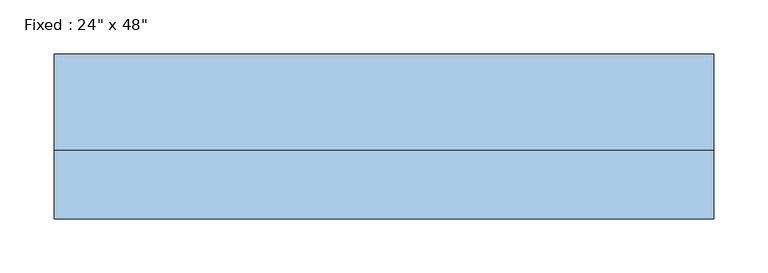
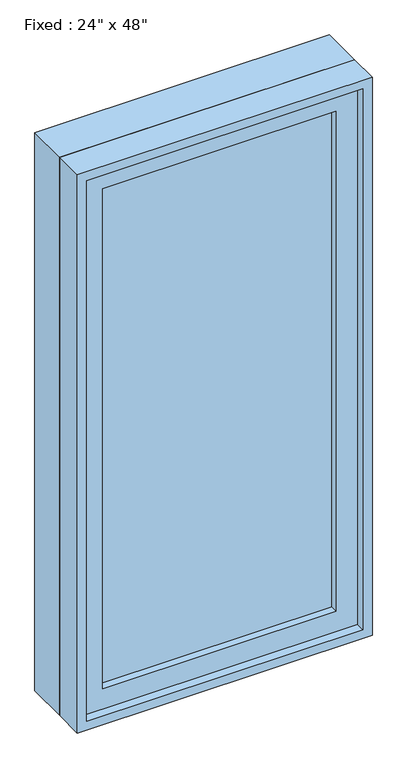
"""IFC4 building model written with IfcOpenShell, lengths in millimetres: window geometry."""

from ifc_helpers import new_model, si_unit, frame, origin, place, context, project, spatial, polyline, outline, extrude, source, transform, mapped, element, save


def window_e417f23f(model_context):
    return source(origin(), model_context, "Body", "SweptSolid", [
        extrude(outline(polyline([(203.2, -28.575), (203.2, -41.275), (-279.4, -41.275), (-279.4, -28.575), (203.2, -28.575)])), frame((0.0, 0.0, 977.9), z_axis=(0.0, 0.0, 1.0), x_axis=(1.0, 0.0, 0.0)), (0.0, 0.0, 1.0), 1092.2),
        extrude(outline(polyline([(2114.55, -323.85), (933.45, -323.85), (933.45, 247.65), (2114.55, 247.65), (2114.55, -323.85)]), holes=[polyline([(2070.1, -279.4), (2070.1, 203.2), (977.9, 203.2), (977.9, -279.4), (2070.1, -279.4)])]), frame((0.0, -57.15, 0.0), z_axis=(0.0, 1.0, 0.0), x_axis=(0.0, 0.0, 1.0)), (0.0, 0.0, 1.0), 44.45),
        extrude(outline(polyline([(2133.6, -342.9), (914.4, -342.9), (914.4, 266.7), (2133.6, 266.7), (2133.6, -342.9)]), holes=[polyline([(2101.85, -311.15), (2101.85, 234.95), (946.15, 234.95), (946.15, -311.15), (2101.85, -311.15)])]), frame((0.0, -12.7, 0.0), z_axis=(0.0, 1.0, 0.0), x_axis=(0.0, 0.0, 1.0)), (0.0, 0.0, 1.0), 88.9),
        extrude(outline(polyline([(2133.6, 266.7), (2133.6, -342.9), (914.4, -342.9), (914.4, 266.7), (2133.6, 266.7)]), holes=[polyline([(2114.55, 247.65), (933.45, 247.65), (933.45, -323.85), (2114.55, -323.85), (2114.55, 247.65)])]), frame((0.0, -76.2, 0.0), z_axis=(0.0, 1.0, 0.0), x_axis=(0.0, 0.0, 1.0)), (0.0, 0.0, 1.0), 63.5),
    ])


if __name__ == "__main__":
    model = new_model("IFC4")
    model_context = context("Model", 3, world=origin())
    ifc_project = project(units=[si_unit("LENGTHUNIT", "METRE", prefix="MILLI")], contexts=[model_context])
    site = spatial("IfcSite", under=ifc_project)
    building = spatial("IfcBuilding", under=site)
    placement = place(None, origin())
    window_shape = window_e417f23f(model_context)
    element("IfcWindow", 1, ObjectType="Fixed : 24\" x 48\"", at=placement, inside=building, context=model_context, shape_type="MappedRepresentation", body=[
        mapped(window_shape, transform((0.0, 0.0, 0.0), x_axis=(1.0, 0.0, 0.0), y_axis=(0.0, 1.0, 0.0), z_axis=(0.0, 0.0, 1.0))),
    ])
    save(model, "model.ifc")
